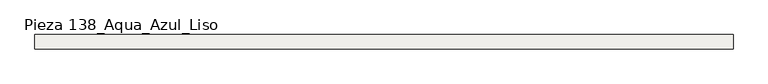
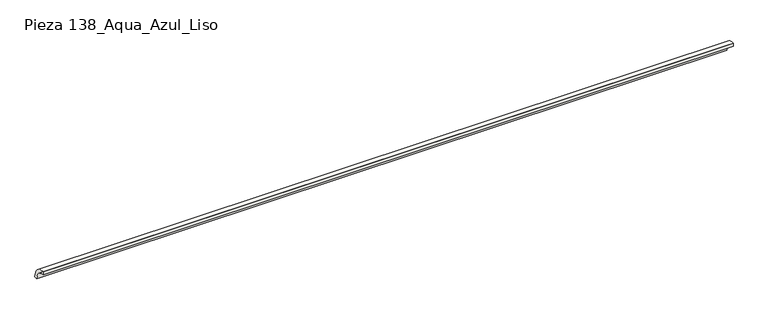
"""IFC4 building model written with IfcOpenShell, lengths in millimetres: slab geometry, ROSA GRES_138 : Pieza 138_Aqua_Azul_Liso."""

from ifc_helpers import new_model, si_unit, point, frame, frame_2d, origin, origin_2d, place, context, project, spatial, polyline, circle_curve, trimmed, segment, composite_curve, outline, extrude, source, transform, mapped, element, save


def pieza_138_aqua_azul_liso_09cfdbad(model_context):
    return source(origin(), model_context, "Body", "SweptSolid", [
        extrude(outline(composite_curve([segment(trimmed(circle_curve(origin_2d(), 40.0), [point((0.0, 40.0))], [point((40.0, 0.0))], False, "CARTESIAN"), True, "CONTINUOUS"), segment(polyline([(40.0, 0.0), (30.0265886, 0.0)]), True, "CONTINUOUS"), segment(trimmed(circle_curve(frame_2d((0.0044453, 0.0044453)), 30.0221435), [point((30.0265886, 0.0))], [point((0.0, 30.0265886))], True, "CARTESIAN"), True, "CONTINUOUS"), segment(polyline([(0.0, 30.0265886), (0.0, 40.0)]), True, "CONTINUOUS")], self_intersect=False)), frame((0.0, 0.0, 0.0), z_axis=(1.0, 0.0, 0.0), x_axis=(0.0, 1.0, 0.0)), (0.0, 0.0, 1.0), 1955.7824737),
    ])


if __name__ == "__main__":
    model = new_model("IFC4")
    model_context = context("Model", 3, world=origin())
    ifc_project = project(units=[si_unit("LENGTHUNIT", "METRE", prefix="MILLI")], contexts=[model_context])
    site = spatial("IfcSite", under=ifc_project)
    building = spatial("IfcBuilding", under=site)
    placement = place(None, origin())
    pieza_138_aqua_azul_liso_shape = pieza_138_aqua_azul_liso_09cfdbad(model_context)
    element("IfcSlab", 1, ObjectType="ROSA GRES_138 : Pieza 138_Aqua_Azul_Liso", at=placement, inside=building, context=model_context, shape_type="MappedRepresentation", body=[
        mapped(pieza_138_aqua_azul_liso_shape, transform((0.0, 0.0, 0.0), x_axis=(1.0, 0.0, 0.0), y_axis=(0.0, 1.0, 0.0), z_axis=(0.0, 0.0, 1.0))),
    ])
    save(model, "model.ifc")
